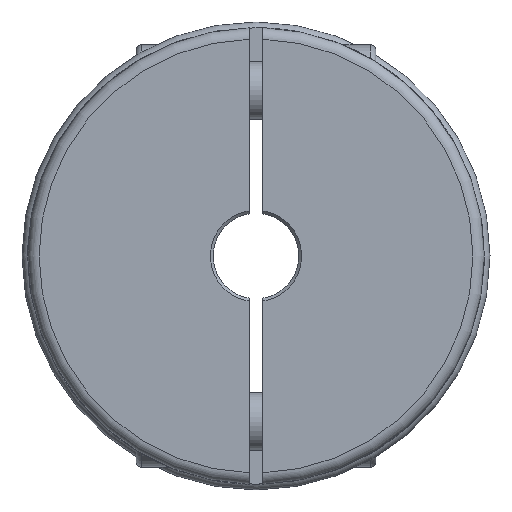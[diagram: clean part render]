
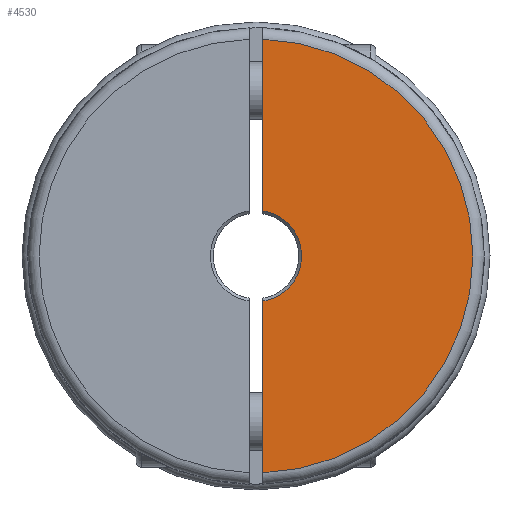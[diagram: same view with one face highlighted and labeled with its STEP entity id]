
A CAD part, left-side view. The second image highlights one B-rep face of the part: STEP entity #4530.
In plain terms, the highlighted planar face has unit normal (-1, 0, 0).
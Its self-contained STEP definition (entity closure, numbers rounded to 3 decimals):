
#26=LINE('',#6597,#170);
#35=LINE('',#6628,#179);
#170=VECTOR('',#5349,1000.);
#179=VECTOR('',#5362,1000.);
#425=PLANE('',#4834);
#770=ORIENTED_EDGE('',*,*,#1445,.T.);
#771=ORIENTED_EDGE('',*,*,#1373,.T.);
#772=ORIENTED_EDGE('',*,*,#1433,.F.);
#773=ORIENTED_EDGE('',*,*,#1461,.F.);
#1373=EDGE_CURVE('',#1766,#1764,#2060,.T.);
#1433=EDGE_CURVE('',#1819,#1764,#26,.T.);
#1445=EDGE_CURVE('',#1825,#1766,#35,.T.);
#1461=EDGE_CURVE('',#1825,#1819,#2101,.T.);
#1764=VERTEX_POINT('',#6179);
#1766=VERTEX_POINT('',#6182);
#1819=VERTEX_POINT('',#6598);
#1825=VERTEX_POINT('',#6629);
#2060=CIRCLE('',#4751,8.);
#2101=CIRCLE('',#4820,38.);
#2335=EDGE_LOOP('',(#770,#771,#772,#773));
#2679=FACE_BOUND('',#2335,.T.);
#4530=ADVANCED_FACE('',(#2679),#425,.F.);
#4751=AXIS2_PLACEMENT_3D('',#6181,#5231,#5232);
#4820=AXIS2_PLACEMENT_3D('',#6671,#5393,#5394);
#4834=AXIS2_PLACEMENT_3D('',#6685,#5421,#5422);
#5231=DIRECTION('',(1.,0.,0.));
#5232=DIRECTION('',(0.,0.,-1.));
#5349=DIRECTION('',(0.,0.,1.));
#5362=DIRECTION('',(0.,0.,-1.));
#5393=DIRECTION('',(1.,0.,0.));
#5394=DIRECTION('',(0.,0.,-1.));
#5421=DIRECTION('',(1.,0.,0.));
#5422=DIRECTION('',(0.,0.,-1.));
#6179=CARTESIAN_POINT('',(-134.251,-1.2,-7.909));
#6181=CARTESIAN_POINT('',(-134.251,0.,0.));
#6182=CARTESIAN_POINT('',(-134.251,-1.2,7.909));
#6597=CARTESIAN_POINT('',(-134.251,-1.2,40.));
#6598=CARTESIAN_POINT('',(-134.251,-1.2,-37.981));
#6628=CARTESIAN_POINT('',(-134.251,-1.2,40.));
#6629=CARTESIAN_POINT('',(-134.251,-1.2,37.981));
#6671=CARTESIAN_POINT('',(-134.251,0.,0.));
#6685=CARTESIAN_POINT('',(-134.251,0.,40.));
